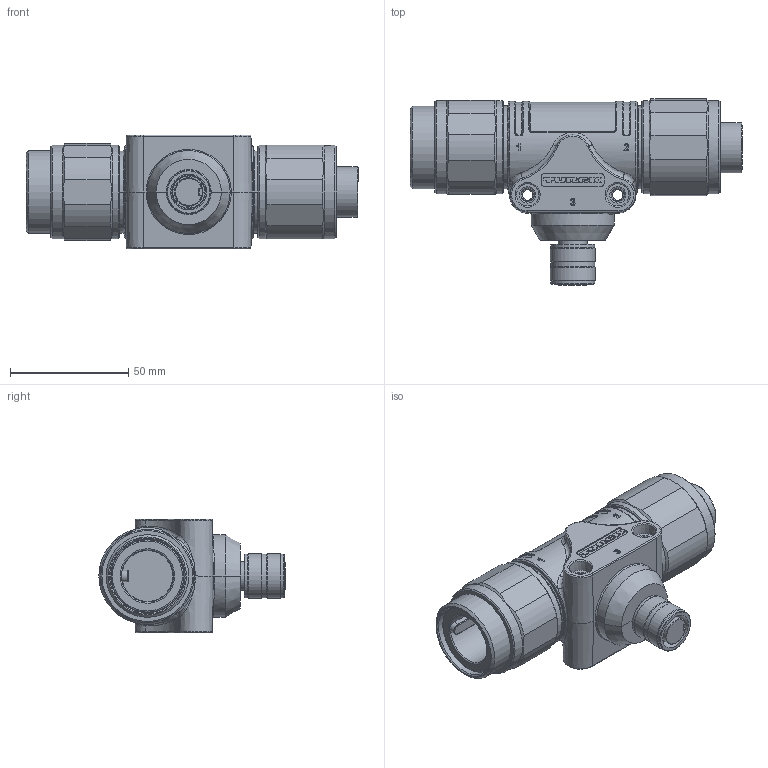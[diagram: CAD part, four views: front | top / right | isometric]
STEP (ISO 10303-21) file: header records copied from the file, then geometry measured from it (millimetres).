
FILE_DESCRIPTION(/* description */ ('PART (MM)'),/* implementation_level */ '2;1');
FILE_NAME(/* name */ 'L:\CAD Inventor\Workspace\Catalogs\CATALOG-TURCK CONNECTORS\GSDV-GKDV-BKMV-0.stp',/* time_stamp */ '2021-07-26T06:28:25-05:00',/* author */ ('RSwans'),/* organization */ (''),/* preprocessor_version */ 'ST-DEVELOPER v16.5',/* originating_system */ 'Autodesk Inventor 2017',/* authorisation */ '');
FILE_SCHEMA (('AUTOMOTIVE_DESIGN { 1 0 10303 214 3 1 1 }'));
Length unit declared in the file: millimetre
Products named in the file (1): Part1
Bounding box: 140.3 x 78.7 x 48 mm (x, y, z)
Volume: 179189.4 mm3; surface area: 49411.3 mm2
Topology: 1 solids, 10 shells, 1151 faces, 3042 edges, 1957 vertices
Faces by surface type: plane 598, cylinder 322, bspline 92, torus 76, cone 61, sphere 2
Full cylindrical faces by diameter (mm): 3.15 x3, 3.3 x3, 4.4 x4, 4.95 x4, 11.55 x1, 12.3 x1, 12.4 x1, 13.5 x1, 13.6 x1, 14.1 x1, 14.4 x1, 14.5 x1, 15.188 x1, 18.5 x3, 19 x2, 24.05 x1, 24.9 x2, 28.05 x1, 30.6 x2, 31 x1, 32 x1, 33.1 x2, 34.7 x2, 34.925 x2, 37.95 x2, 39.4 x4
Entity records: 39128 total; most frequent: CARTESIAN_POINT 10299, ORIENTED_EDGE 5818, DIRECTION 5487, EDGE_CURVE 2909, VERTEX_POINT 1931, AXIS2_PLACEMENT_3D 1848, LINE 1791, VECTOR 1791
